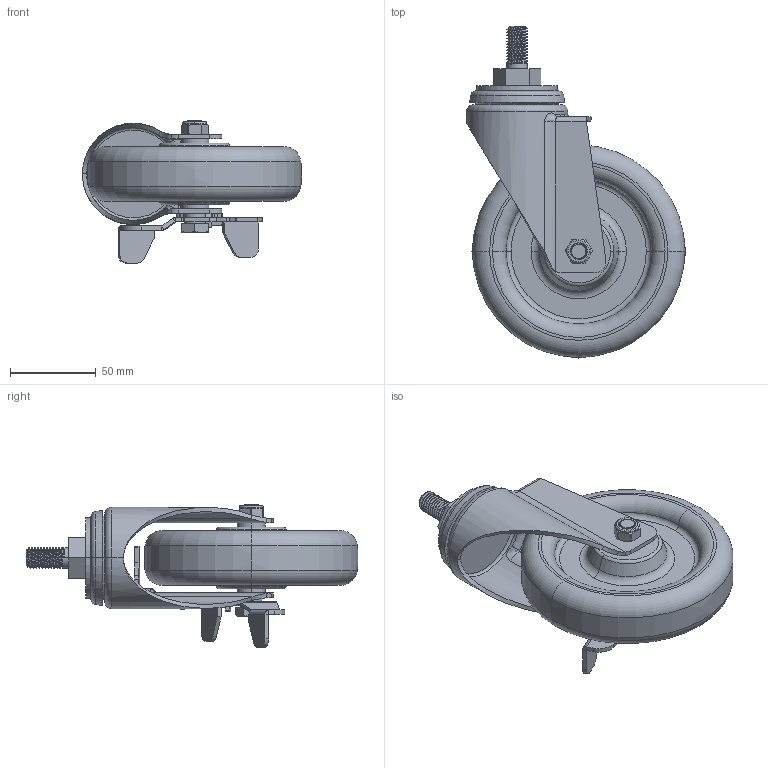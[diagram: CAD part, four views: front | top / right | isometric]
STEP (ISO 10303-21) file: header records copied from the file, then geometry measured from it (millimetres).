
FILE_DESCRIPTION((''),'2;1');
FILE_NAME('50145C-505-86_ASM','2020-01-07T',('L'),(''),'PRO/ENGINEER BY PARAMETRIC TECHNOLOGY CORPORATION, 2010280','PRO/ENGINEER BY PARAMETRIC TECHNOLOGY CORPORATION, 2010280','');
FILE_SCHEMA(('CONFIG_CONTROL_DESIGN'));
Length unit declared in the file: millimetre
Products named in the file (7): 50145C; 505-986; 502-33; 570-34; 503-15; 500-14; 50145C-505-86_ASM
Assembly tree (6 placements, depth 2):
  50145C-505-86_ASM
    50145C
    505-986
    502-33
    570-34
    503-15
    500-14
Bounding box: 128.1 x 194.15 x 83.14 mm (x, y, z)
Volume: 371418.4 mm3; surface area: 84264.8 mm2
Topology: 6 solids, 6 shells, 442 faces, 1070 edges, 656 vertices
Faces by surface type: cylinder 167, plane 145, bspline 65, cone 33, torus 32
Entity records: 24012 total; most frequent: CARTESIAN_POINT 14088, ORIENTED_EDGE 2140, DIRECTION 1853, EDGE_CURVE 1070, AXIS2_PLACEMENT_3D 684, VERTEX_POINT 656, VECTOR 485, LINE 485
